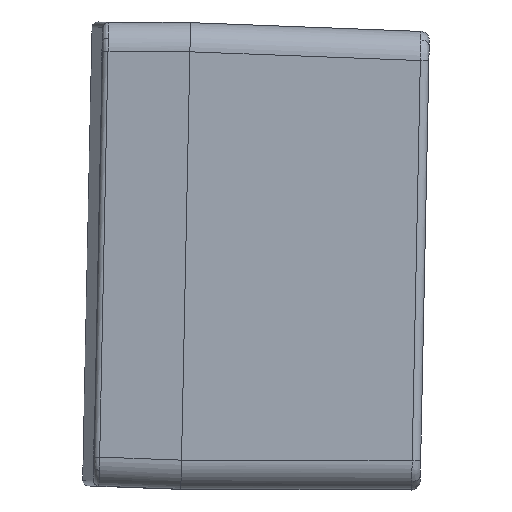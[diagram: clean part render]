
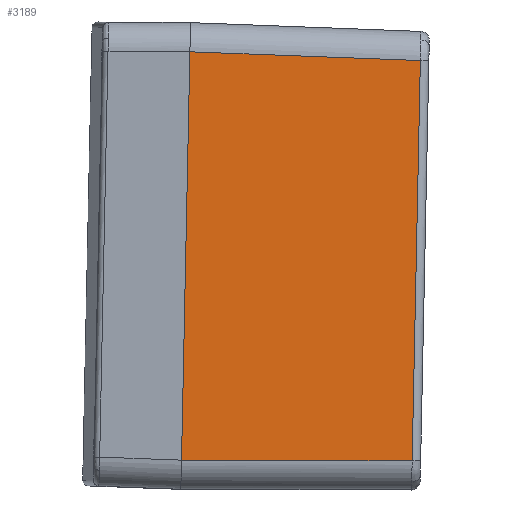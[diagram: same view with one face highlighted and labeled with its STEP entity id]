
A CAD part, left-side view. The second image highlights one B-rep face of the part: STEP entity #3189.
In plain terms, the highlighted planar face has unit normal (-1, -0.025, -0.001) as drawn and (-1, -0.017, 0) by its records, which use the part's own axes.
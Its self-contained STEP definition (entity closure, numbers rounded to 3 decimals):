
#16 = EDGE_CURVE ( 'NONE', #3903, #5364, #3580, .T. ) ;
#1531 = DIRECTION ( 'NONE',  ( 0.017, -1., 0. ) ) ;
#1576 = DIRECTION ( 'NONE',  ( -1., -0.017, 0. ) ) ;
#2406 = DIRECTION ( 'NONE',  ( 0.017, -1., 0.017 ) ) ;
#3010 = VECTOR ( 'NONE', #2406, 1000. ) ;
#3182 = EDGE_LOOP ( 'NONE', ( #10049, #7031, #4027, #8791 ) ) ;
#3189 = ADVANCED_FACE ( 'NONE', ( #10446 ), #6023, .T. ) ;
#3265 = VECTOR ( 'NONE', #10124, 1000. ) ;
#3374 = CARTESIAN_POINT ( 'NONE',  ( -124.977, -1.308, -34.978 ) ) ;
#3580 = LINE ( 'NONE', #7591, #3265 ) ;
#3903 = VERTEX_POINT ( 'NONE', #9663 ) ;
#3991 = CARTESIAN_POINT ( 'NONE',  ( -125., 0., 35.001 ) ) ;
#4027 = ORIENTED_EDGE ( 'NONE', *, *, #5566, .T. ) ;
#5079 = VECTOR ( 'NONE', #12416, 1000. ) ;
#5364 = VERTEX_POINT ( 'NONE', #3991 ) ;
#5494 = DIRECTION ( 'NONE',  ( 0., 0., 1. ) ) ;
#5566 = EDGE_CURVE ( 'NONE', #12378, #5364, #12195, .T. ) ;
#6023 = PLANE ( 'NONE',  #9366 ) ;
#6059 = CARTESIAN_POINT ( 'NONE',  ( -125., 0., 40. ) ) ;
#6399 = VECTOR ( 'NONE', #5494, 1000. ) ;
#6918 = CARTESIAN_POINT ( 'NONE',  ( -124.31, -39.526, -34.311 ) ) ;
#7031 = ORIENTED_EDGE ( 'NONE', *, *, #8355, .T. ) ;
#7591 = CARTESIAN_POINT ( 'NONE',  ( -125., 0., 40. ) ) ;
#8072 = VERTEX_POINT ( 'NONE', #6918 ) ;
#8355 = EDGE_CURVE ( 'NONE', #8072, #12378, #9084, .T. ) ;
#8379 = CARTESIAN_POINT ( 'NONE',  ( -125.002, 0.087, 35.002 ) ) ;
#8409 = LINE ( 'NONE', #3374, #3010 ) ;
#8791 = ORIENTED_EDGE ( 'NONE', *, *, #16, .F. ) ;
#9084 = LINE ( 'NONE', #10639, #6399 ) ;
#9366 = AXIS2_PLACEMENT_3D ( 'NONE', #6059, #1576, #1531 ) ;
#9663 = CARTESIAN_POINT ( 'NONE',  ( -125., 0., -35.001 ) ) ;
#9785 = EDGE_CURVE ( 'NONE', #3903, #8072, #8409, .T. ) ;
#10049 = ORIENTED_EDGE ( 'NONE', *, *, #9785, .T. ) ;
#10124 = DIRECTION ( 'NONE',  ( 0., 0., 1. ) ) ;
#10446 = FACE_OUTER_BOUND ( 'NONE', #3182, .T. ) ;
#10547 = CARTESIAN_POINT ( 'NONE',  ( -124.31, -39.526, 34.311 ) ) ;
#10639 = CARTESIAN_POINT ( 'NONE',  ( -124.31, -39.526, 40. ) ) ;
#12195 = LINE ( 'NONE', #8379, #5079 ) ;
#12378 = VERTEX_POINT ( 'NONE', #10547 ) ;
#12416 = DIRECTION ( 'NONE',  ( -0.017, 1., 0.017 ) ) ;
